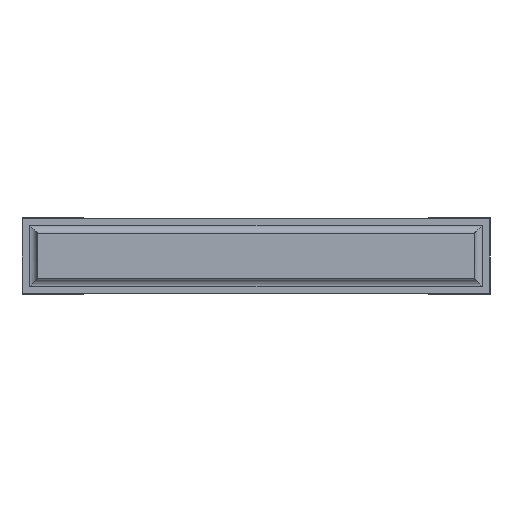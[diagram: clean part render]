
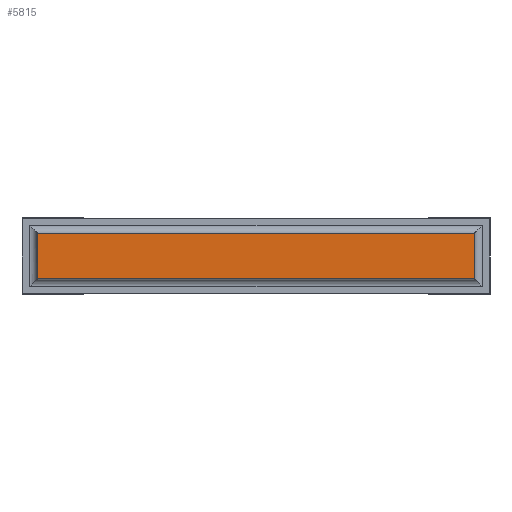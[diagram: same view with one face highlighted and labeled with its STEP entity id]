
A CAD part, front view. The second image highlights one B-rep face of the part: STEP entity #5815.
In plain terms, the highlighted planar face has unit normal (0, -1, 0).
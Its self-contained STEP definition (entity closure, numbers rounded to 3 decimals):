
#123=PLANE('',#6172);
#373=FACE_OUTER_BOUND('',#698,.T.);
#698=EDGE_LOOP('',(#4025,#4026,#4027,#4028));
#1018=LINE('',#8258,#1768);
#1024=LINE('',#8274,#1774);
#1033=LINE('',#8291,#1783);
#1034=LINE('',#8293,#1784);
#1768=VECTOR('',#6617,10.);
#1774=VECTOR('',#6631,10.);
#1783=VECTOR('',#6648,10.);
#1784=VECTOR('',#6651,10.);
#2555=VERTEX_POINT('',#8255);
#2556=VERTEX_POINT('',#8257);
#2561=VERTEX_POINT('',#8270);
#2562=VERTEX_POINT('',#8272);
#3124=EDGE_CURVE('',#2556,#2555,#1018,.T.);
#3132=EDGE_CURVE('',#2562,#2561,#1024,.T.);
#3141=EDGE_CURVE('',#2556,#2562,#1033,.T.);
#3142=EDGE_CURVE('',#2561,#2555,#1034,.T.);
#4025=ORIENTED_EDGE('',*,*,#3141,.F.);
#4026=ORIENTED_EDGE('',*,*,#3124,.T.);
#4027=ORIENTED_EDGE('',*,*,#3142,.F.);
#4028=ORIENTED_EDGE('',*,*,#3132,.F.);
#5815=ADVANCED_FACE('',(#373),#123,.T.);
#6172=AXIS2_PLACEMENT_3D('',#8292,#6649,#6650);
#6617=DIRECTION('',(0.,0.,-1.));
#6631=DIRECTION('',(0.,0.,-1.));
#6648=DIRECTION('',(1.,0.,0.));
#6649=DIRECTION('center_axis',(0.,-1.,0.));
#6650=DIRECTION('ref_axis',(0.,0.,-1.));
#6651=DIRECTION('',(-1.,0.,0.));
#8255=CARTESIAN_POINT('',(0.1,0.,0.1));
#8257=CARTESIAN_POINT('',(0.1,0.,0.4));
#8258=CARTESIAN_POINT('',(0.1,0.,0.4));
#8270=CARTESIAN_POINT('',(2.96,0.,0.1));
#8272=CARTESIAN_POINT('',(2.96,0.,0.4));
#8274=CARTESIAN_POINT('',(2.96,0.,0.4));
#8291=CARTESIAN_POINT('',(0.1,0.,0.4));
#8292=CARTESIAN_POINT('Origin',(2.96,0.,0.25));
#8293=CARTESIAN_POINT('',(2.96,0.,0.1));
